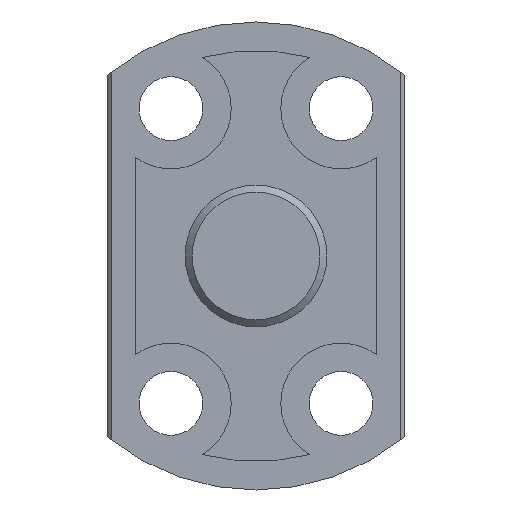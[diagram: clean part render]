
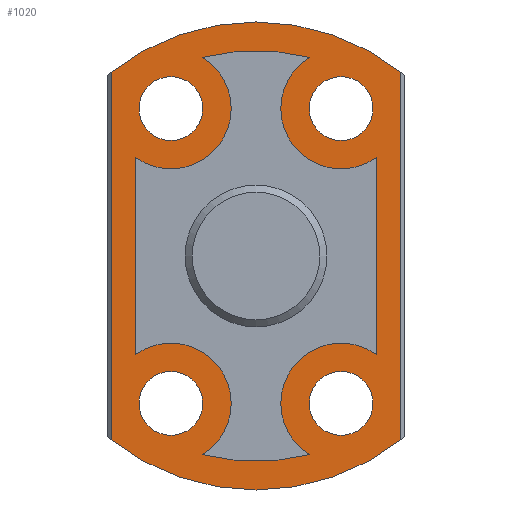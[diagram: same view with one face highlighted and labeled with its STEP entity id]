
A CAD part, left-side view. The second image highlights one B-rep face of the part: STEP entity #1020.
In plain terms, the highlighted planar face has unit normal (-1, 0, 0).
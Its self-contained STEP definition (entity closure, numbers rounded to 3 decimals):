
#238=CARTESIAN_POINT('',(150.0,-10.2,-12.97));
#239=VERTEX_POINT('',#238);
#257=CARTESIAN_POINT('',(150.0,-10.2,12.97));
#258=VERTEX_POINT('',#257);
#266=CARTESIAN_POINT('',(150.0,-10.2,12.97));
#267=DIRECTION('',(0.0,0.0,-1.0));
#268=VECTOR('',#267,25.939);
#269=LINE('',#266,#268);
#270=EDGE_CURVE('',#258,#239,#269,.T.);
#312=CARTESIAN_POINT('',(150.0,10.2,-12.97));
#313=VERTEX_POINT('',#312);
#314=CARTESIAN_POINT('',(150.0,0.0,0.0));
#315=DIRECTION('',(1.0,0.0,0.0));
#316=DIRECTION('',(0.0,1.0,0.0));
#317=AXIS2_PLACEMENT_3D('',#314,#315,#316);
#318=CIRCLE('',#317,16.5);
#319=EDGE_CURVE('',#239,#313,#318,.T.);
#372=CARTESIAN_POINT('',(150.0,10.2,12.97));
#373=VERTEX_POINT('',#372);
#390=CARTESIAN_POINT('',(150.0,10.2,-12.97));
#391=DIRECTION('',(0.0,0.0,1.0));
#392=VECTOR('',#391,25.939);
#393=LINE('',#390,#392);
#394=EDGE_CURVE('',#313,#373,#393,.T.);
#457=CARTESIAN_POINT('',(150.0,0.0,0.0));
#458=DIRECTION('',(1.0,0.0,0.0));
#459=DIRECTION('',(0.0,1.0,0.0));
#460=AXIS2_PLACEMENT_3D('',#457,#458,#459);
#461=CIRCLE('',#460,16.5);
#462=EDGE_CURVE('',#373,#258,#461,.T.);
#662=CARTESIAN_POINT('',(150.0,-3.76,-14.004));
#663=VERTEX_POINT('',#662);
#670=CARTESIAN_POINT('',(150.0,-8.5,-6.955));
#671=VERTEX_POINT('',#670);
#672=CARTESIAN_POINT('',(150.0,-6.,-10.392));
#673=DIRECTION('',(-1.0,0.0,0.0));
#674=DIRECTION('',(0.0,1.0,0.0));
#675=AXIS2_PLACEMENT_3D('',#672,#673,#674);
#676=CIRCLE('',#675,4.25);
#677=EDGE_CURVE('',#671,#663,#676,.T.);
#694=CARTESIAN_POINT('',(150.0,-8.5,6.955));
#695=VERTEX_POINT('',#694);
#702=CARTESIAN_POINT('',(150.0,-3.76,14.004));
#703=VERTEX_POINT('',#702);
#704=CARTESIAN_POINT('',(150.0,-6.,10.392));
#705=DIRECTION('',(-1.0,0.0,0.0));
#706=DIRECTION('',(0.0,1.0,0.0));
#707=AXIS2_PLACEMENT_3D('',#704,#705,#706);
#708=CIRCLE('',#707,4.25);
#709=EDGE_CURVE('',#703,#695,#708,.T.);
#726=CARTESIAN_POINT('',(150.0,8.5,6.955));
#727=VERTEX_POINT('',#726);
#735=CARTESIAN_POINT('',(150.0,3.76,14.004));
#736=VERTEX_POINT('',#735);
#743=CARTESIAN_POINT('',(150.0,6.,10.392));
#744=DIRECTION('',(-1.0,0.0,0.0));
#745=DIRECTION('',(0.0,1.0,0.0));
#746=AXIS2_PLACEMENT_3D('',#743,#744,#745);
#747=CIRCLE('',#746,4.25);
#748=EDGE_CURVE('',#727,#736,#747,.T.);
#758=CARTESIAN_POINT('',(150.0,8.5,-6.955));
#759=VERTEX_POINT('',#758);
#766=CARTESIAN_POINT('',(150.0,3.76,-14.004));
#767=VERTEX_POINT('',#766);
#768=CARTESIAN_POINT('',(150.0,6.,-10.392));
#769=DIRECTION('',(-1.0,0.0,0.0));
#770=DIRECTION('',(0.0,1.0,0.0));
#771=AXIS2_PLACEMENT_3D('',#768,#769,#770);
#772=CIRCLE('',#771,4.25);
#773=EDGE_CURVE('',#767,#759,#772,.T.);
#791=CARTESIAN_POINT('',(150.0,-8.5,6.955));
#792=DIRECTION('',(0.0,0.0,-1.0));
#793=VECTOR('',#792,13.911);
#794=LINE('',#791,#793);
#795=EDGE_CURVE('',#695,#671,#794,.T.);
#808=CARTESIAN_POINT('',(150.0,0.0,0.0));
#809=DIRECTION('',(1.0,0.0,0.0));
#810=DIRECTION('',(0.0,1.0,0.0));
#811=AXIS2_PLACEMENT_3D('',#808,#809,#810);
#812=CIRCLE('',#811,14.5);
#813=EDGE_CURVE('',#736,#703,#812,.T.);
#826=CARTESIAN_POINT('',(150.0,8.5,-6.955));
#827=DIRECTION('',(0.0,0.0,1.0));
#828=VECTOR('',#827,13.911);
#829=LINE('',#826,#828);
#830=EDGE_CURVE('',#759,#727,#829,.T.);
#845=CARTESIAN_POINT('',(150.0,0.0,0.0));
#846=DIRECTION('',(1.0,0.0,0.0));
#847=DIRECTION('',(0.0,1.0,0.0));
#848=AXIS2_PLACEMENT_3D('',#845,#846,#847);
#849=CIRCLE('',#848,14.5);
#850=EDGE_CURVE('',#663,#767,#849,.T.);
#863=CARTESIAN_POINT('',(150.0,8.25,-10.392));
#864=VERTEX_POINT('',#863);
#865=CARTESIAN_POINT('',(150.0,6.,-10.392));
#866=DIRECTION('',(1.0,0.0,0.0));
#867=DIRECTION('',(0.0,1.0,0.0));
#868=AXIS2_PLACEMENT_3D('',#865,#866,#867);
#869=CIRCLE('',#868,2.25);
#870=EDGE_CURVE('',#864,#864,#869,.T.);
#883=CARTESIAN_POINT('',(150.0,8.25,10.392));
#884=VERTEX_POINT('',#883);
#885=CARTESIAN_POINT('',(150.0,6.,10.392));
#886=DIRECTION('',(1.0,0.0,0.0));
#887=DIRECTION('',(0.0,1.0,0.0));
#888=AXIS2_PLACEMENT_3D('',#885,#886,#887);
#889=CIRCLE('',#888,2.25);
#890=EDGE_CURVE('',#884,#884,#889,.T.);
#903=CARTESIAN_POINT('',(150.0,-3.75,10.392));
#904=VERTEX_POINT('',#903);
#905=CARTESIAN_POINT('',(150.0,-6.,10.392));
#906=DIRECTION('',(1.0,0.0,0.0));
#907=DIRECTION('',(0.0,1.0,0.0));
#908=AXIS2_PLACEMENT_3D('',#905,#906,#907);
#909=CIRCLE('',#908,2.25);
#910=EDGE_CURVE('',#904,#904,#909,.T.);
#923=CARTESIAN_POINT('',(150.0,-3.75,-10.392));
#924=VERTEX_POINT('',#923);
#925=CARTESIAN_POINT('',(150.0,-6.,-10.392));
#926=DIRECTION('',(1.0,0.0,0.0));
#927=DIRECTION('',(0.0,1.0,0.0));
#928=AXIS2_PLACEMENT_3D('',#925,#926,#927);
#929=CIRCLE('',#928,2.25);
#930=EDGE_CURVE('',#924,#924,#929,.T.);
#987=CARTESIAN_POINT('',(150.0,0.0,0.0));
#988=DIRECTION('',(-1.0,0.0,0.0));
#989=DIRECTION('',(0.0,0.0,1.0));
#990=AXIS2_PLACEMENT_3D('',#987,#988,#989);
#991=PLANE('',#990);
#992=ORIENTED_EDGE('',*,*,#270,.F.);
#993=ORIENTED_EDGE('',*,*,#462,.F.);
#994=ORIENTED_EDGE('',*,*,#394,.F.);
#995=ORIENTED_EDGE('',*,*,#319,.F.);
#996=EDGE_LOOP('',(#992,#993,#994,#995));
#997=FACE_OUTER_BOUND('',#996,.T.);
#998=ORIENTED_EDGE('',*,*,#677,.T.);
#999=ORIENTED_EDGE('',*,*,#850,.T.);
#1000=ORIENTED_EDGE('',*,*,#773,.T.);
#1001=ORIENTED_EDGE('',*,*,#830,.T.);
#1002=ORIENTED_EDGE('',*,*,#748,.T.);
#1003=ORIENTED_EDGE('',*,*,#813,.T.);
#1004=ORIENTED_EDGE('',*,*,#709,.T.);
#1005=ORIENTED_EDGE('',*,*,#795,.T.);
#1006=EDGE_LOOP('',(#998,#999,#1000,#1001,#1002,#1003,#1004,#1005));
#1007=FACE_BOUND('',#1006,.T.);
#1008=ORIENTED_EDGE('',*,*,#870,.T.);
#1009=EDGE_LOOP('',(#1008));
#1010=FACE_BOUND('',#1009,.T.);
#1011=ORIENTED_EDGE('',*,*,#890,.T.);
#1012=EDGE_LOOP('',(#1011));
#1013=FACE_BOUND('',#1012,.T.);
#1014=ORIENTED_EDGE('',*,*,#910,.T.);
#1015=EDGE_LOOP('',(#1014));
#1016=FACE_BOUND('',#1015,.T.);
#1017=ORIENTED_EDGE('',*,*,#930,.T.);
#1018=EDGE_LOOP('',(#1017));
#1019=FACE_BOUND('',#1018,.T.);
#1020=ADVANCED_FACE('',(#997,#1007,#1010,#1013,#1016,#1019),#991,.T.);
